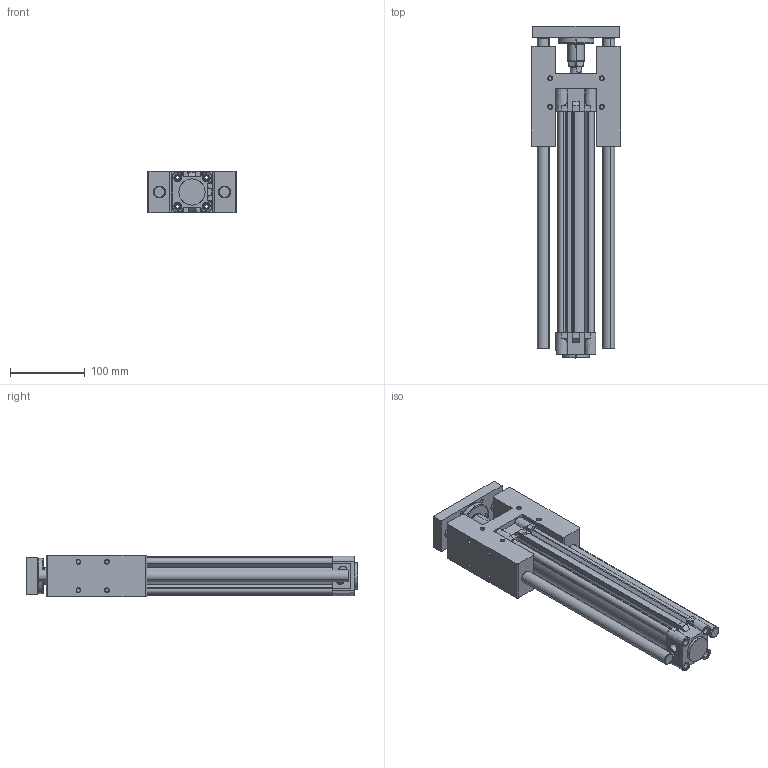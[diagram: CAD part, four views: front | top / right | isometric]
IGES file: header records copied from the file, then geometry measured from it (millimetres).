
Start section: SolidWorks IGES file using analytic representation for surfaces
Global section: file name: D:\ARICA 3D 禽Z軲LER\3D IGES\DNC-H\KDNT\40\KDNT40X250H-YATAK.IGS,1; native system: 5HSolidWorks 2013; preprocessor: SolidWorks 2013; author: user; date: 160518.104003; units: millimetre
Bounding box: 119 x 443 x 56 mm (x, y, z)
Surface area: 353011.7 mm2 (no closed solid volume)
Topology: 0 solids, 0 shells, 875 faces, 15011 edges, 15005 vertices
Faces by surface type: revolution 549, bspline 326
